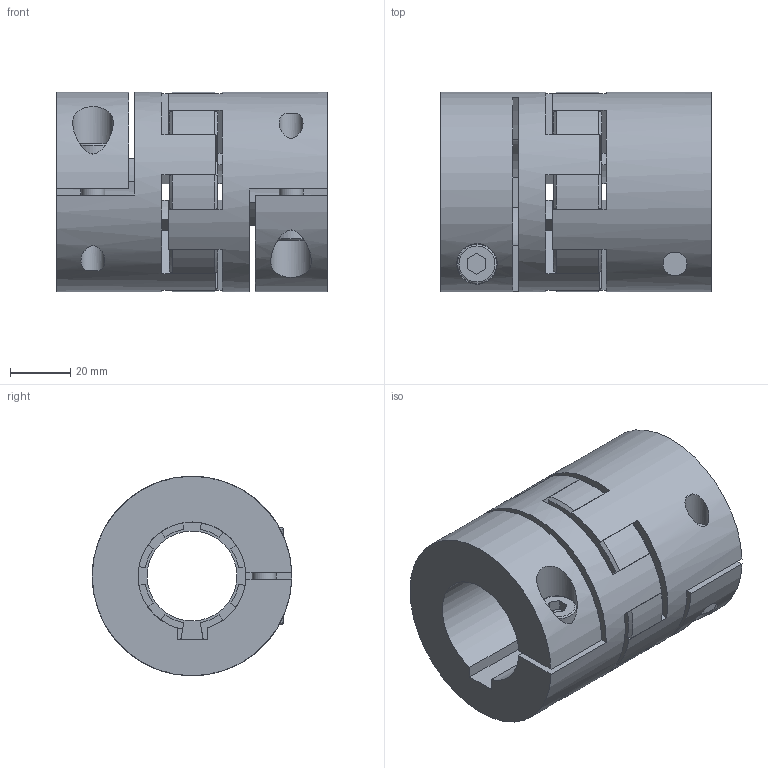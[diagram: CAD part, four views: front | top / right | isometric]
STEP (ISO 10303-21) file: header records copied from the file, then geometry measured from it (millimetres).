
FILE_DESCRIPTION(/* description */ ('STEP AP214'),/* implementation_level */ '2;1');
FILE_NAME(/* name */ 'C:\Diequa Files\DieQua Coupling\EC\STP\EC.150.ABC.#.#.stp',/* time_stamp */ '2018-12-07T10:37:45-06:00',/* author */ ('DiequaCAD'),/* organization */ (''),/* preprocessor_version */ 'ST-DEVELOPER v17.2',/* originating_system */ 'Autodesk Inventor 2019',/* authorisation */ ' ');
FILE_SCHEMA (('AUTOMOTIVE_DESIGN { 1 0 10303 214 3 1 1 }'));
Length unit declared in the file: millimetre
Products named in the file (4): EK2_150_A_36_PFN_36_PFN_3; 2018_11_29__14-48-20-530; 2018_11_29__14-48-20-530_1; 2018_11_29__14-48-20-530_2
Assembly tree (3 placements, depth 2):
  EK2_150_A_36_PFN_36_PFN_3
    2018_11_29__14-48-20-530
    2018_11_29__14-48-20-530_1
    2018_11_29__14-48-20-530_2
Bounding box: 90 x 66.5 x 66.49 mm (x, y, z)
Volume: 209209.2 mm3; surface area: 59653.6 mm2
Topology: 3 solids, 3 shells, 157 faces, 439 edges, 294 vertices
Faces by surface type: plane 98, cylinder 41, cone 16, torus 2
Full cylindrical faces by diameter (mm): 8 x4, 8.5 x2, 13 x2, 13.5 x2, 30 x1, 66.5 x2
Entity records: 5409 total; most frequent: CARTESIAN_POINT 1043, DIRECTION 921, ORIENTED_EDGE 878, EDGE_CURVE 439, AXIS2_PLACEMENT_3D 326, VERTEX_POINT 294, LINE 269, VECTOR 269
